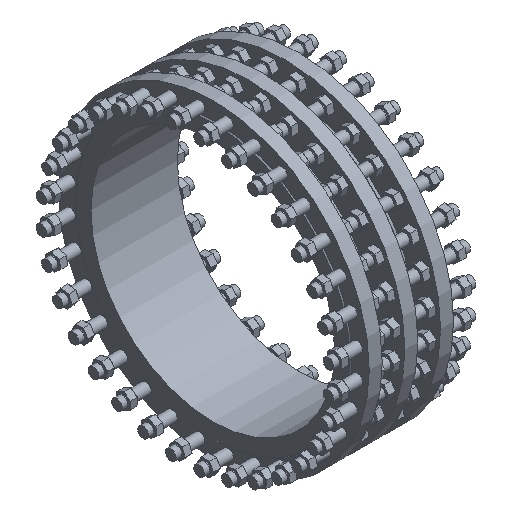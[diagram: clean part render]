
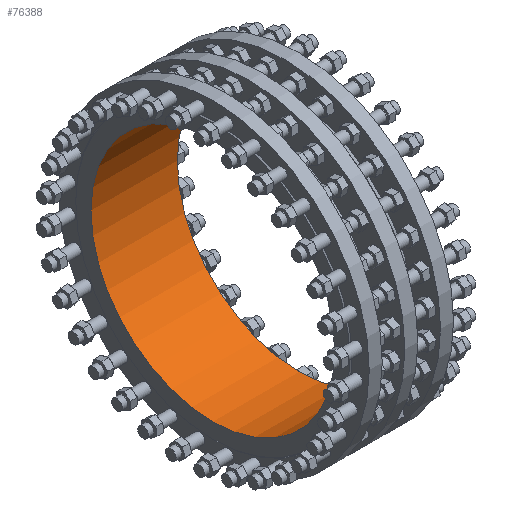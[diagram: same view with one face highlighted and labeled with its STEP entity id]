
A CAD part, isometric view. The second image highlights one B-rep face of the part: STEP entity #76388.
In plain terms, the highlighted cylindrical face has radius 600 mm (diameter 1200 mm), a full revolution.
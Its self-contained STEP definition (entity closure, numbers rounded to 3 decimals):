
#879 = FACE_OUTER_BOUND ( 'NONE', #36144, .T. ) ;
#2698 = DIRECTION ( 'NONE',  ( 0., 0., 1. ) ) ;
#4568 = DIRECTION ( 'NONE',  ( -1., 0., 0. ) ) ;
#5846 = DIRECTION ( 'NONE',  ( -1., 0., 0. ) ) ;
#8732 = FACE_OUTER_BOUND ( 'NONE', #77556, .T. ) ;
#9774 = ORIENTED_EDGE ( 'NONE', *, *, #91135, .T. ) ;
#12134 = ORIENTED_EDGE ( 'NONE', *, *, #30641, .F. ) ;
#15185 = DIRECTION ( 'NONE',  ( -1., 0., 0. ) ) ;
#16544 = CARTESIAN_POINT ( 'NONE',  ( 900., 0., 0. ) ) ;
#18260 = CARTESIAN_POINT ( 'NONE',  ( 0., 0., 600. ) ) ;
#23448 = CYLINDRICAL_SURFACE ( 'NONE', #83975, 600. ) ;
#30641 = EDGE_CURVE ( 'NONE', #67242, #67242, #54144, .T. ) ;
#30708 = CIRCLE ( 'NONE', #72001, 600. ) ;
#36144 = EDGE_LOOP ( 'NONE', ( #12134 ) ) ;
#41448 = CARTESIAN_POINT ( 'NONE',  ( 425., 0., 0. ) ) ;
#42291 = DIRECTION ( 'NONE',  ( 0., 0., 1. ) ) ;
#54144 = CIRCLE ( 'NONE', #71815, 600. ) ;
#67242 = VERTEX_POINT ( 'NONE', #75511 ) ;
#71815 = AXIS2_PLACEMENT_3D ( 'NONE', #41448, #4568, #89386 ) ;
#72001 = AXIS2_PLACEMENT_3D ( 'NONE', #76400, #5846, #42291 ) ;
#75511 = CARTESIAN_POINT ( 'NONE',  ( 425., 0., 600. ) ) ;
#76388 = ADVANCED_FACE ( 'NONE', ( #8732, #879 ), #23448, .F. ) ;
#76400 = CARTESIAN_POINT ( 'NONE',  ( 0., 0., 0. ) ) ;
#77556 = EDGE_LOOP ( 'NONE', ( #9774 ) ) ;
#83975 = AXIS2_PLACEMENT_3D ( 'NONE', #16544, #15185, #2698 ) ;
#89243 = VERTEX_POINT ( 'NONE', #18260 ) ;
#89386 = DIRECTION ( 'NONE',  ( 0., 0., 1. ) ) ;
#91135 = EDGE_CURVE ( 'NONE', #89243, #89243, #30708, .T. ) ;
